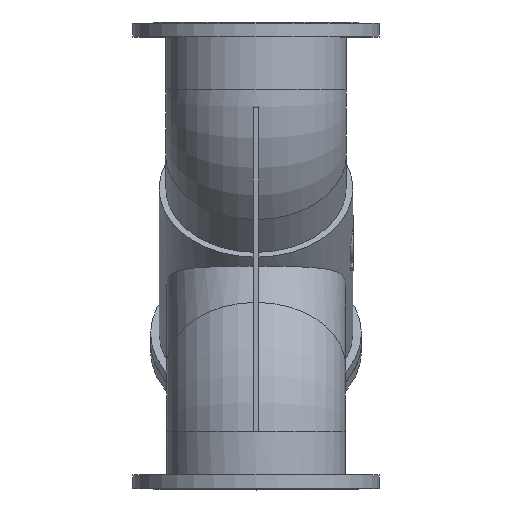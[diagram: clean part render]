
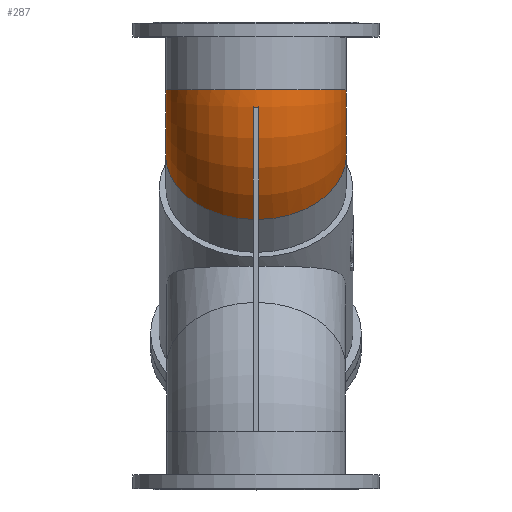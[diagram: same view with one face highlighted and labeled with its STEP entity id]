
A CAD part, top view. The second image highlights one B-rep face of the part: STEP entity #287.
In plain terms, the highlighted toroidal (fillet/blend) face has major radius 220 mm and minor radius 212 mm.
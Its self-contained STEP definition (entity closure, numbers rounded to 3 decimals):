
#287=ADVANCED_FACE('',(#1131,#1133),#1135,.T.);
#1131=FACE_BOUND('',#1132,.T.);
#1132=EDGE_LOOP('',(#2017,#2018,#2019,#2020,#2021));
#1133=FACE_OUTER_BOUND('',#1134,.T.);
#1134=EDGE_LOOP('',(#2022));
#1135=TOROIDAL_SURFACE('',#1136,220.,212.);
#1136=AXIS2_PLACEMENT_3D('',#1137,#1138,#1139);
#1137=CARTESIAN_POINT('',(0.,391.127,-220.));
#1138=DIRECTION('',(1.,0.,0.));
#1139=DIRECTION('',(0.,0.,1.));
#2017=ORIENTED_EDGE('',*,*,#2316,.F.);
#2018=ORIENTED_EDGE('',*,*,#2328,.F.);
#2019=ORIENTED_EDGE('',*,*,#2307,.F.);
#2020=ORIENTED_EDGE('',*,*,#2326,.F.);
#2021=ORIENTED_EDGE('',*,*,#2325,.F.);
#2022=ORIENTED_EDGE('',*,*,#2329,.T.);
#2307=EDGE_CURVE('',#2528,#2530,#2531,.T.);
#2316=EDGE_CURVE('',#2544,#2546,#2547,.F.);
#2325=EDGE_CURVE('',#2546,#2560,#2561,.F.);
#2326=EDGE_CURVE('',#2560,#2528,#2562,.T.);
#2328=EDGE_CURVE('',#2530,#2544,#2564,.T.);
#2329=EDGE_CURVE('',#2565,#2565,#2566,.T.);
#2528=VERTEX_POINT('',#3830);
#2530=VERTEX_POINT('',#3834);
#2531=CIRCLE('',#3835,431.915);
#2544=VERTEX_POINT('',#3868);
#2546=VERTEX_POINT('',#3872);
#2547=CIRCLE('',#3873,431.915);
#2560=VERTEX_POINT('',#3910);
#2561=B_SPLINE_CURVE_WITH_KNOTS('',3,
(#3911,#3912,#3913,#3914,#3915,#3916,#3917,#3918,#3919,#3920,#3921,#3922,#3923,#3924,
#3925,#3926,#3927,#3928,#3929,#3930,#3931,#3932,#3933,#3934,#3935,#3936,#3937,#3938,
#3939,#3940),
.UNSPECIFIED.,.F.,.F.,
(4,1,1,1,1,1,1,1,1,1,1,1,1,1,1,1,1,1,1,1,1,1,1,1,1,1,1,4),
(0.,0.055,0.11,0.164,0.211,0.217,
0.269,0.32,0.37,0.418,0.466,
0.512,0.556,0.598,0.633,0.64,
0.678,0.716,0.751,0.786,0.819,
0.852,0.883,0.913,0.922,0.943,
0.972,1.),
.UNSPECIFIED.);
#2562=B_SPLINE_CURVE_WITH_KNOTS('',3,
(#3941,#3942,#3943,#3944,#3945,#3946,#3947,#3948,#3949,#3950,#3951,#3952,#3953,#3954,
#3955,#3956,#3957,#3958,#3959,#3960,#3961,#3962,#3963,#3964,#3965,#3966,#3967,#3968,
#3969,#3970),
.UNSPECIFIED.,.F.,.F.,
(4,1,1,1,1,1,1,1,1,1,1,1,1,1,1,1,1,1,1,1,1,1,1,1,1,1,1,4),
(0.,0.055,0.11,0.164,0.211,0.217,
0.269,0.32,0.37,0.418,0.466,
0.512,0.556,0.598,0.633,0.64,
0.678,0.716,0.751,0.786,0.819,
0.852,0.883,0.913,0.922,0.943,
0.972,1.),
.UNSPECIFIED.);
#2564=CIRCLE('',#3974,212.);
#2565=VERTEX_POINT('',#3978);
#2566=CIRCLE('',#3979,212.);
#3830=CARTESIAN_POINT('',(-6.,350.499,210.));
#3834=CARTESIAN_POINT('',(-6.,85.717,85.41));
#3835=AXIS2_PLACEMENT_3D('',#3836,#3837,#3838);
#3836=CARTESIAN_POINT('',(-6.,391.127,-220.));
#3837=DIRECTION('',(1.,0.,0.));
#3838=DIRECTION('',(0.,-0.094,0.996));
#3868=CARTESIAN_POINT('',(6.,85.717,85.41));
#3872=CARTESIAN_POINT('',(6.,350.499,210.));
#3873=AXIS2_PLACEMENT_3D('',#3874,#3875,#3876);
#3874=CARTESIAN_POINT('',(6.,391.127,-220.));
#3875=DIRECTION('',(1.,0.,0.));
#3876=DIRECTION('',(0.,-0.094,0.996));
#3910=CARTESIAN_POINT('',(0.,349.606,210.));
#3911=CARTESIAN_POINT('',(0.,349.606,210.));
#3912=CARTESIAN_POINT('',(0.112,349.606,210.));
#3913=CARTESIAN_POINT('',(0.334,349.608,210.));
#3914=CARTESIAN_POINT('',(0.666,349.616,210.));
#3915=CARTESIAN_POINT('',(0.984,349.629,210.));
#3916=CARTESIAN_POINT('',(1.2,349.641,210.));
#3917=CARTESIAN_POINT('',(1.414,349.655,210.));
#3918=CARTESIAN_POINT('',(1.633,349.671,210.));
#3919=CARTESIAN_POINT('',(1.943,349.698,210.));
#3920=CARTESIAN_POINT('',(2.243,349.729,210.));
#3921=CARTESIAN_POINT('',(2.537,349.763,210.));
#3922=CARTESIAN_POINT('',(2.823,349.801,210.));
#3923=CARTESIAN_POINT('',(3.101,349.842,210.));
#3924=CARTESIAN_POINT('',(3.366,349.884,210.));
#3925=CARTESIAN_POINT('',(3.61,349.927,210.));
#3926=CARTESIAN_POINT('',(3.777,349.957,210.));
#3927=CARTESIAN_POINT('',(3.936,349.988,210.));
#3928=CARTESIAN_POINT('',(4.1,350.02,210.));
#3929=CARTESIAN_POINT('',(4.322,350.067,210.));
#3930=CARTESIAN_POINT('',(4.536,350.113,210.));
#3931=CARTESIAN_POINT('',(4.741,350.161,210.));
#3932=CARTESIAN_POINT('',(4.939,350.209,210.));
#3933=CARTESIAN_POINT('',(5.129,350.256,210.));
#3934=CARTESIAN_POINT('',(5.313,350.304,210.));
#3935=CARTESIAN_POINT('',(5.451,350.341,210.));
#3936=CARTESIAN_POINT('',(5.568,350.374,210.));
#3937=CARTESIAN_POINT('',(5.682,350.406,210.));
#3938=CARTESIAN_POINT('',(5.833,350.449,210.));
#3939=CARTESIAN_POINT('',(5.945,350.482,210.));
#3940=CARTESIAN_POINT('',(6.,350.499,210.));
#3941=CARTESIAN_POINT('',(0.,349.606,210.));
#3942=CARTESIAN_POINT('',(-0.112,349.606,210.));
#3943=CARTESIAN_POINT('',(-0.334,349.608,210.));
#3944=CARTESIAN_POINT('',(-0.666,349.616,210.));
#3945=CARTESIAN_POINT('',(-0.984,349.629,210.));
#3946=CARTESIAN_POINT('',(-1.2,349.641,210.));
#3947=CARTESIAN_POINT('',(-1.414,349.655,210.));
#3948=CARTESIAN_POINT('',(-1.633,349.671,210.));
#3949=CARTESIAN_POINT('',(-1.943,349.698,210.));
#3950=CARTESIAN_POINT('',(-2.243,349.729,210.));
#3951=CARTESIAN_POINT('',(-2.537,349.763,210.));
#3952=CARTESIAN_POINT('',(-2.823,349.801,210.));
#3953=CARTESIAN_POINT('',(-3.101,349.842,210.));
#3954=CARTESIAN_POINT('',(-3.366,349.884,210.));
#3955=CARTESIAN_POINT('',(-3.61,349.927,210.));
#3956=CARTESIAN_POINT('',(-3.777,349.957,210.));
#3957=CARTESIAN_POINT('',(-3.936,349.988,210.));
#3958=CARTESIAN_POINT('',(-4.1,350.02,210.));
#3959=CARTESIAN_POINT('',(-4.322,350.067,210.));
#3960=CARTESIAN_POINT('',(-4.536,350.113,210.));
#3961=CARTESIAN_POINT('',(-4.741,350.161,210.));
#3962=CARTESIAN_POINT('',(-4.939,350.209,210.));
#3963=CARTESIAN_POINT('',(-5.129,350.256,210.));
#3964=CARTESIAN_POINT('',(-5.313,350.304,210.));
#3965=CARTESIAN_POINT('',(-5.451,350.341,210.));
#3966=CARTESIAN_POINT('',(-5.568,350.374,210.));
#3967=CARTESIAN_POINT('',(-5.682,350.406,210.));
#3968=CARTESIAN_POINT('',(-5.833,350.449,210.));
#3969=CARTESIAN_POINT('',(-5.945,350.482,210.));
#3970=CARTESIAN_POINT('',(-6.,350.499,210.));
#3974=AXIS2_PLACEMENT_3D('',#3975,#3976,#3977);
#3975=CARTESIAN_POINT('',(0.,235.563,-64.437));
#3976=DIRECTION('',(0.,-0.707,-0.707));
#3977=DIRECTION('',(-0.028,-0.707,0.707));
#3978=CARTESIAN_POINT('',(0.,391.127,212.));
#3979=AXIS2_PLACEMENT_3D('',#3980,#3981,#3982);
#3980=CARTESIAN_POINT('',(0.,391.127,0.));
#3981=DIRECTION('',(0.,-1.,0.));
#3982=DIRECTION('',(0.,0.,1.));
